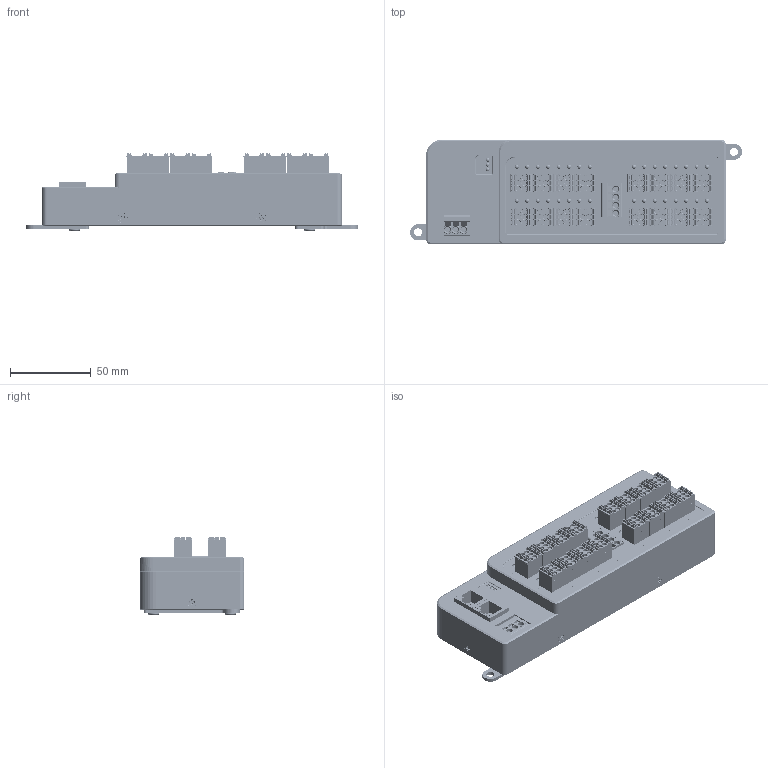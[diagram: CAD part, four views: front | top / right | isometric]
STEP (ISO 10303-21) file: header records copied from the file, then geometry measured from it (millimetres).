
FILE_DESCRIPTION((''),'2;1');
FILE_NAME('MRSHELL-32_MR5201-EA__20190214__ASM','2024-12-02T00:15:00',('huang'),('yulong DESIGN'),'CREO PARAMETRIC BY PTC INC, 2021023','CREO PARAMETRIC BY PTC INC, 2021023','');
FILE_SCHEMA(('AUTOMOTIVE_DESIGN { 1 0 10303 214 1 1 1 1 }'));
Products named in the file (18): MR5201-EA_SKEL_2_37; FRONT_COVER_MR5201_25_50; REAR_COVER_MR5201_8_37; HY951180A_4_37; FRONT_PCBA_MR5201_29_37; REAR_PCBA_COMMON_26_37; LIGHT_PIPE_11D7_PWR_2_37; LIGHT_PIPE_10_IO_1_37; MR5201-EA_ASM_20_ASM_37_ASM; MC-DPT3_5V06-BK-2000_44; MC-DRT3_5H06P-A-BK-0001_38; M-ALL_ASM_42_ASM; DINKLE_0177-5304_1; DINKLE_0177-5303_1; SCREW_PH_M4X6_3_1; SCREW_FLAT_M3X8_6_1; CLW-1_18; MRSHELL-32_MR5201-EA__20190214__ASM
Assembly tree (69 placements, depth 3):
  MRSHELL-32_MR5201-EA__20190214__ASM
    MR5201-EA_ASM_20_ASM_37_ASM
      MR5201-EA_SKEL_2_37
      FRONT_COVER_MR5201_25_50
      REAR_COVER_MR5201_8_37
      HY951180A_4_37  x2
      FRONT_PCBA_MR5201_29_37
      REAR_PCBA_COMMON_26_37
      LIGHT_PIPE_11D7_PWR_2_37  x3
      LIGHT_PIPE_10_IO_1_37  x32
    M-ALL_ASM_42_ASM  x4
      MC-DPT3_5V06-BK-2000_44
      MC-DRT3_5H06P-A-BK-0001_38
    DINKLE_0177-5304_1
    DINKLE_0177-5303_1
    SCREW_PH_M4X6_3_1  x4
    SCREW_FLAT_M3X8_6_1  x6
    CLW-1_18  x2
Bounding box: 206 x 65 x 48.72 mm (x, y, z)
Volume: 181312.1 mm3; surface area: 178724.6 mm2
Topology: 87 solids, 205 shells, 16098 faces, 46060 edges, 31029 vertices
Faces by surface type: plane 9029, cylinder 5018, torus 793, extrusion 512, cone 433, bspline 224, sphere 81, revolution 8
Entity records: 134110 total; most frequent: CARTESIAN_POINT 34858, ORIENTED_EDGE 16547, DIRECTION 15594, EDGE_CURVE 9148, VERTEX_POINT 6600, AXIS2_PLACEMENT_3D 5249, VECTOR 5094, LINE 5062
